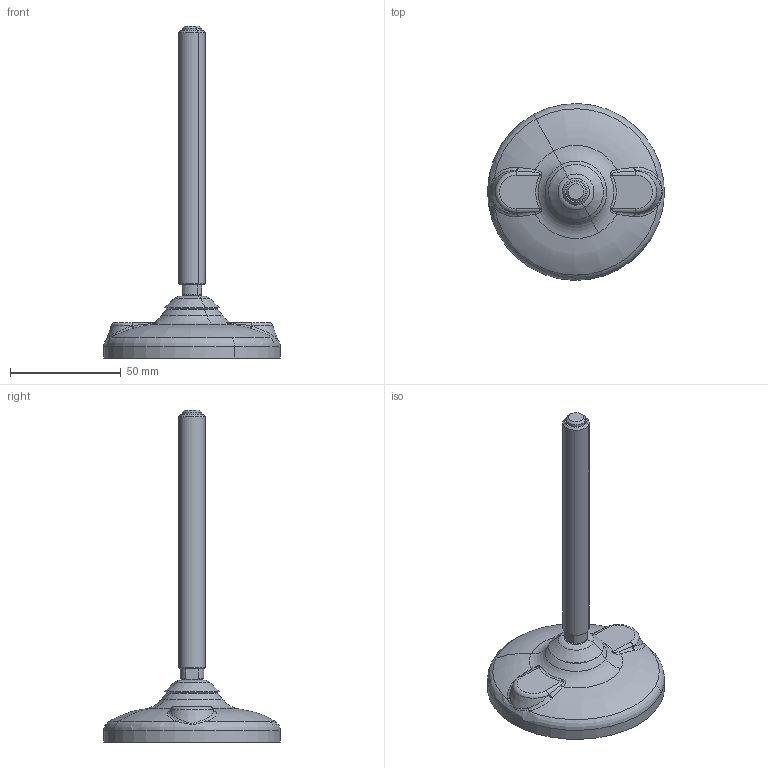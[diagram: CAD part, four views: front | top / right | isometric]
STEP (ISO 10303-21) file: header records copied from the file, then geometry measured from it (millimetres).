
FILE_DESCRIPTION(('CATIA V5 STEP Exchange'),'2;1');
FILE_NAME('X:\CODICI MOVEX\3D per clienti\Lorena Mascheretti\05-03-2014\P91002Z_01.stp','2014-03-05T08:45:35+00:00',('none'),('none'),'Version 5-6 Release 2012','CATIA V5 STEP AP203','none');
FILE_SCHEMA(('CONFIG_CONTROL_DESIGN'));
Length unit declared in the file: millimetre
Products named in the file (1): P91002Z_01
Assembly tree (3 placements, depth 2):
  P91002Z_01
    #57
    #885
    #1226
Bounding box: 79.98 x 79.98 x 150.11 mm (x, y, z)
Volume: 55773.5 mm3; surface area: 34321.8 mm2
Topology: 3 solids, 5 shells, 844 faces, 2266 edges, 1429 vertices
Faces by surface type: plane 492, bspline 146, torus 69, cylinder 46, cone 40, sphere 28, revolution 23
Entity records: 35482 total; most frequent: CARTESIAN_POINT 18358, ORIENTED_EDGE 4504, EDGE_CURVE 2252, DIRECTION 1935, B_SPLINE_CURVE_WITH_KNOTS 1443, VERTEX_POINT 1429, AXIS2_PLACEMENT_3D 871, EDGE_LOOP 859
